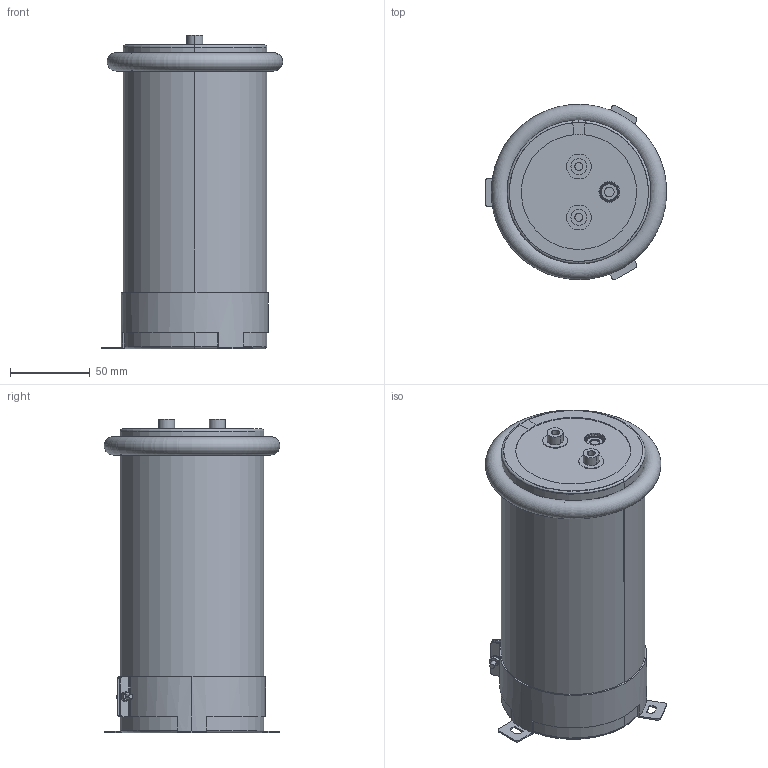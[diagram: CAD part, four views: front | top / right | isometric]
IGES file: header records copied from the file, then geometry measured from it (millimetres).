
Start section: 3D InterOp IGES (v. 2019 1.0.2), Spatial Corp. Copyright (c) 1999-2017.
Global section: file name: 90x190_Screw.igs; native system: Spatial Corp.; preprocessor: 3D InterOp ACIS/IGES; author: Noname; organization: Noname; date: 20220314.174933; units: millimetre
Bounding box: 113.35 x 109.7 x 196 mm (x, y, z)
Volume: 1553415.4 mm3; surface area: 341039.9 mm2
Topology: 9 solids, 9 shells, 352 faces, 953 edges, 591 vertices
Faces by surface type: plane 112, cylinder 110, torus 90, cone 38, sphere 2
